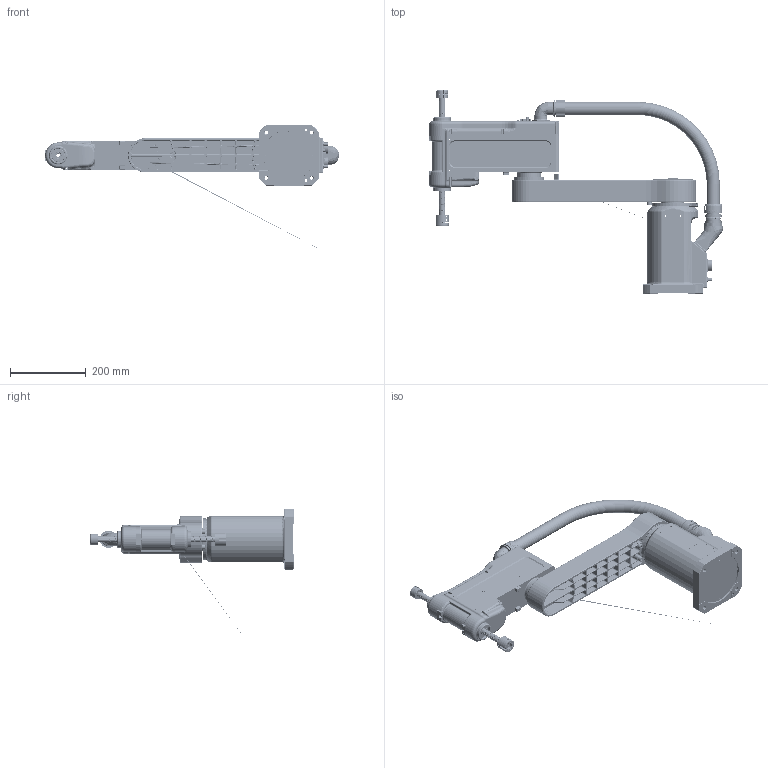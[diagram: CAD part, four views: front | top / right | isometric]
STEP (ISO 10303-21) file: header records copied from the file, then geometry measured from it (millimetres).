
FILE_DESCRIPTION (( 'STEP AP214' ), '1' );
FILE_NAME ('R4-0406 3D耀倰.STEP', '2023-06-08T08:36:49', ( 'iCura' ), ( 'ICOS' ), 'SwSTEP 2.0', 'SolidWorks 2018', '' );
FILE_SCHEMA (( 'AUTOMOTIVE_DESIGN' ));
Length unit declared in the file: millimetre
Products named in the file (7): R4-0404-1-00; R4-0406 3D耀倰; 疏恇奪R4-0406; 软管接头_1; R4-0404-3-00 J3粣 ; R4-0404-4-00 J4粣_300; R4-0406-2-00_S400
Assembly tree (6 placements, depth 2):
  R4-0406 3D耀倰
    R4-0404-1-00
    R4-0406-2-00_S400
    R4-0404-3-00 J3粣 
    R4-0404-4-00 J4粣_300
    软管接头_1
    疏恇奪R4-0406
Bounding box: 775.65 x 536.87 x 354 mm (x, y, z)
Volume: 199526.8 mm3; surface area: 1058192 mm2
Topology: 2 solids, 358 shells, 2957 faces, 9860 edges, 7023 vertices
Faces by surface type: cylinder 1219, plane 895, cone 326, torus 245, bspline 242, sphere 30
Full cylindrical faces by diameter (mm): 1 x18, 2.5 x20, 2.6 x1, 3.2 x8, 3.242 x2, 3.3 x26, 3.4 x27, 3.5 x30, 4 x18, 4.2 x6, 4.5 x38, 5 x4, 5.5 x6, 6 x7, 6.5 x8, 7 x10, 8 x10, 9 x9, 10 x1, 13 x2, 14 x1, 16 x1, 16.5 x1, 26 x1, 29 x2, 30 x4, 30.2 x1, 32 x3, 33 x2, 34 x3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
Entity records: 164801 total; most frequent: CARTESIAN_POINT 50619, DIRECTION 17534, ORIENTED_EDGE 14509, EDGE_CURVE 9084, AXIS2_PLACEMENT_3D 7066, VERTEX_POINT 6883, CIRCLE 4341, EDGE_LOOP 4114
